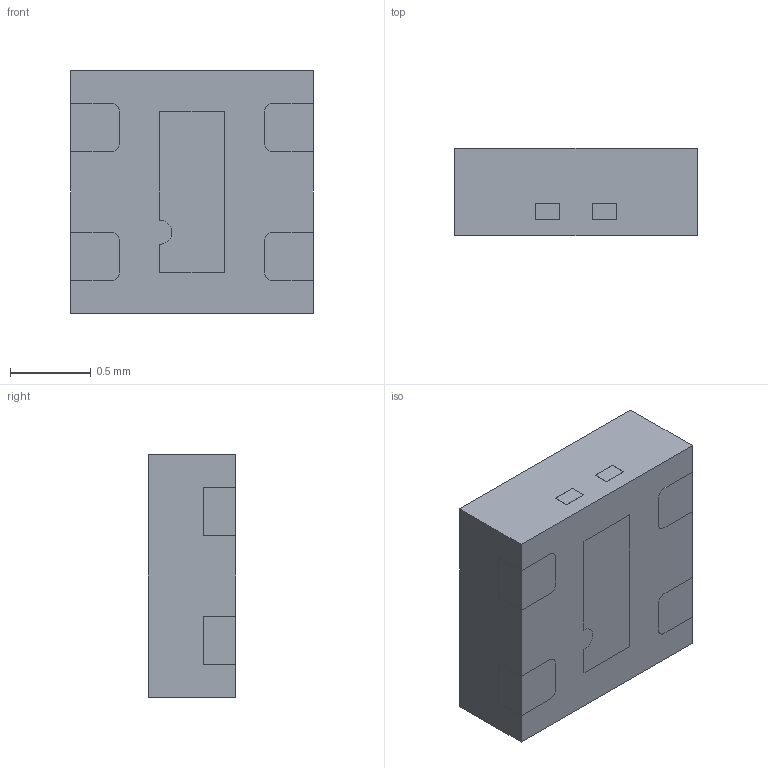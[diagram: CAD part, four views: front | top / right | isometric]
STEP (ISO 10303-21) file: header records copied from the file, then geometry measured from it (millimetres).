
FILE_DESCRIPTION (( 'STEP AP214' ), '1' );
FILE_NAME ('SHT40I-HD1B-R2.STEP', '2023-05-09T05:47:59', ( '' ), ( '' ), 'SwSTEP 2.0', 'SolidWorks 2013', '' );
FILE_SCHEMA (( 'AUTOMOTIVE_DESIGN' ));
Length unit declared in the file: inch
Products named in the file (1): SHT40I-HD1B-R2
Bounding box: 1.5 x 0.54 x 1.5 mm (x, y, z)
Surface area: 10.9 mm2
Topology: 6 solids, 6 shells, 137 faces, 333 edges, 219 vertices
Faces by surface type: plane 105, bspline 19, cylinder 13
Entity records: 6776 total; most frequent: CARTESIAN_POINT 1776, ORIENTED_EDGE 666, DIRECTION 567, EDGE_CURVE 333, VECTOR 269, LINE 269, VERTEX_POINT 219, AXIS2_PLACEMENT_3D 149
